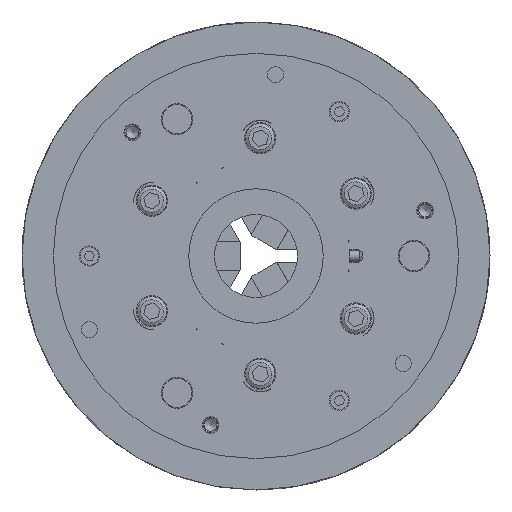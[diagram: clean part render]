
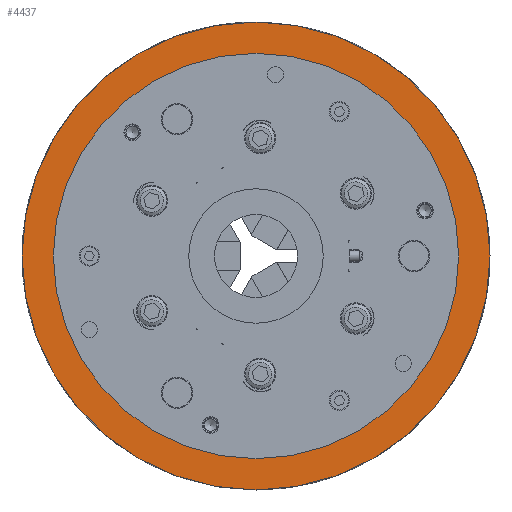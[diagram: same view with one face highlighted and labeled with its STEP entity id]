
A CAD part, left-side view. The second image highlights one B-rep face of the part: STEP entity #4437.
In plain terms, the highlighted planar face has unit normal (-1, 0, 0).
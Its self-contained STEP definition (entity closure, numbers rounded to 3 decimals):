
#910 = CARTESIAN_POINT ( 'NONE',  ( -117., 0., -110. ) ) ;
#3085 = PLANE ( 'NONE',  #21859 ) ;
#4437 = ADVANCED_FACE ( 'NONE', ( #37813, #42814 ), #3085, .T. ) ;
#10473 = ORIENTED_EDGE ( 'NONE', *, *, #56499, .F. ) ;
#20071 = CIRCLE ( 'NONE', #22414, 110. ) ;
#21056 = DIRECTION ( 'NONE',  ( 1., 0., 0. ) ) ;
#21859 = AXIS2_PLACEMENT_3D ( 'NONE', #57118, #66987, #56891 ) ;
#22414 = AXIS2_PLACEMENT_3D ( 'NONE', #38397, #43510, #44206 ) ;
#30156 = EDGE_CURVE ( 'NONE', #66391, #66391, #20071, .T. ) ;
#31573 = CARTESIAN_POINT ( 'NONE',  ( -117., 0., 0. ) ) ;
#37813 = FACE_BOUND ( 'NONE', #59849, .T. ) ;
#38397 = CARTESIAN_POINT ( 'NONE',  ( -117., 0., 0. ) ) ;
#42768 = AXIS2_PLACEMENT_3D ( 'NONE', #31573, #21056, #58687 ) ;
#42814 = FACE_OUTER_BOUND ( 'NONE', #45066, .T. ) ;
#43510 = DIRECTION ( 'NONE',  ( 1., 0., 0. ) ) ;
#43740 = VERTEX_POINT ( 'NONE', #54975 ) ;
#44206 = DIRECTION ( 'NONE',  ( 0., 0., -1. ) ) ;
#45066 = EDGE_LOOP ( 'NONE', ( #10473 ) ) ;
#49294 = ORIENTED_EDGE ( 'NONE', *, *, #30156, .T. ) ;
#54975 = CARTESIAN_POINT ( 'NONE',  ( -117., 0., -127. ) ) ;
#56499 = EDGE_CURVE ( 'NONE', #43740, #43740, #62552, .T. ) ;
#56891 = DIRECTION ( 'NONE',  ( 0., 0., 1. ) ) ;
#57118 = CARTESIAN_POINT ( 'NONE',  ( -117., 63.5, -109.985 ) ) ;
#58687 = DIRECTION ( 'NONE',  ( 0., 0., -1. ) ) ;
#59849 = EDGE_LOOP ( 'NONE', ( #49294 ) ) ;
#62552 = CIRCLE ( 'NONE', #42768, 127. ) ;
#66391 = VERTEX_POINT ( 'NONE', #910 ) ;
#66987 = DIRECTION ( 'NONE',  ( -1., 0., 0. ) ) ;
